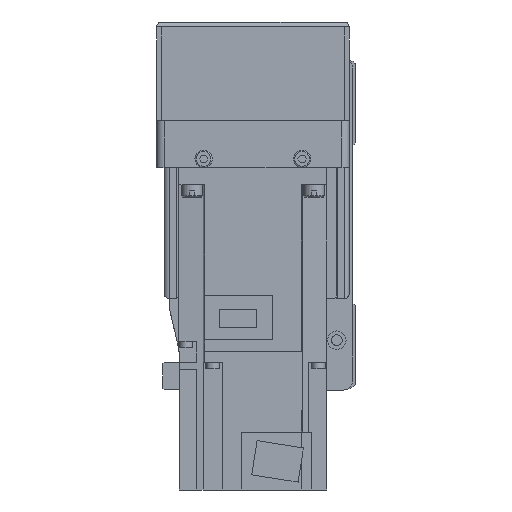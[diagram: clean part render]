
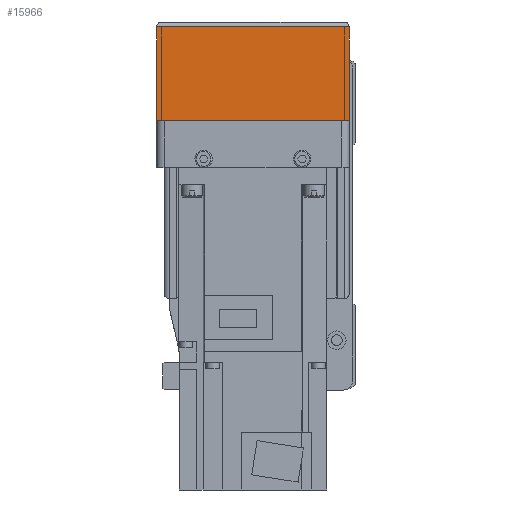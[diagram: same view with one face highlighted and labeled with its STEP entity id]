
A CAD part, left-side view. The second image highlights one B-rep face of the part: STEP entity #15966.
In plain terms, the highlighted planar face has unit normal (-1, 0, 0).
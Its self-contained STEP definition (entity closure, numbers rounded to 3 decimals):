
#2438=ORIENTED_EDGE('',*,*,#6441,.F.);
#2439=ORIENTED_EDGE('',*,*,#6442,.F.);
#2440=ORIENTED_EDGE('',*,*,#6443,.T.);
#2441=ORIENTED_EDGE('',*,*,#6444,.F.);
#6441=EDGE_CURVE('',#8541,#8532,#10186,.T.);
#6442=EDGE_CURVE('',#8558,#8541,#10187,.T.);
#6443=EDGE_CURVE('',#8558,#8559,#10188,.T.);
#6444=EDGE_CURVE('',#8532,#8559,#10189,.T.);
#8532=VERTEX_POINT('',#24584);
#8541=VERTEX_POINT('',#24602);
#8558=VERTEX_POINT('',#24650);
#8559=VERTEX_POINT('',#24652);
#10186=LINE('',#24648,#11719);
#10187=LINE('',#24649,#11720);
#10188=LINE('',#24651,#11721);
#10189=LINE('',#24653,#11722);
#11719=VECTOR('',#19744,1000.);
#11720=VECTOR('',#19745,1000.);
#11721=VECTOR('',#19746,1000.);
#11722=VECTOR('',#19747,1000.);
#13084=EDGE_LOOP('',(#2438,#2439,#2440,#2441));
#14259=FACE_BOUND('',#13084,.T.);
#15275=PLANE('',#17120);
#15966=ADVANCED_FACE('',(#14259),#15275,.F.);
#17120=AXIS2_PLACEMENT_3D('',#24647,#19742,#19743);
#19742=DIRECTION('',(1.,0.,0.));
#19743=DIRECTION('',(0.,0.,-1.));
#19744=DIRECTION('',(0.,-1.,0.));
#19745=DIRECTION('',(0.,0.,1.));
#19746=DIRECTION('',(0.,-1.,0.));
#19747=DIRECTION('',(0.,0.,-1.));
#24584=CARTESIAN_POINT('',(-158.,-39.,-12.1));
#24602=CARTESIAN_POINT('',(-158.,39.,-12.1));
#24647=CARTESIAN_POINT('',(-158.,36.,7.));
#24648=CARTESIAN_POINT('',(-158.,50.,-12.1));
#24649=CARTESIAN_POINT('',(-158.,39.,-50.));
#24650=CARTESIAN_POINT('',(-158.,39.,-50.));
#24651=CARTESIAN_POINT('',(-158.,40.,-50.));
#24652=CARTESIAN_POINT('',(-158.,-39.,-50.));
#24653=CARTESIAN_POINT('',(-158.,-39.,-12.1));
